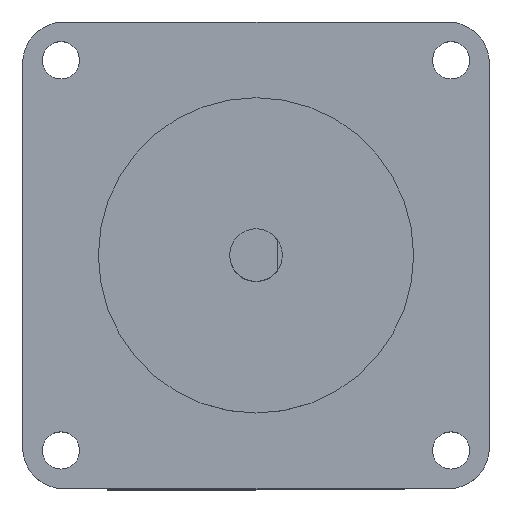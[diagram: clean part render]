
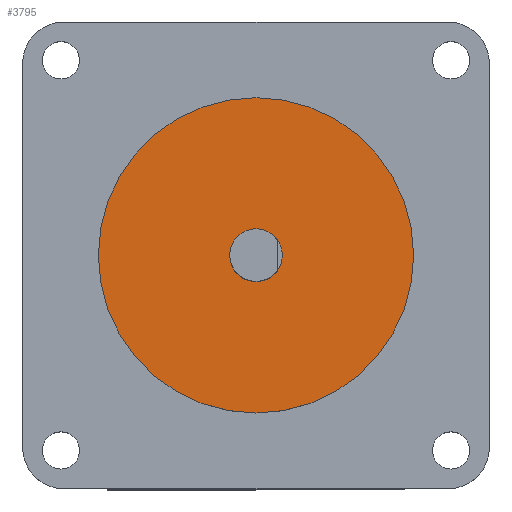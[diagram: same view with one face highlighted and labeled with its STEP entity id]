
A CAD part, top view. The second image highlights one B-rep face of the part: STEP entity #3795.
In plain terms, the highlighted planar face has unit normal (0, 0, 1).
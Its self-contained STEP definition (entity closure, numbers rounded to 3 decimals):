
#7 = FACE_OUTER_BOUND ( 'NONE', #1985, .T. ) ;
#123 = PLANE ( 'NONE',  #2548 ) ;
#233 = AXIS2_PLACEMENT_3D ( 'NONE', #1415, #3676, #1719 ) ;
#248 = CARTESIAN_POINT ( 'NONE',  ( 3.175, 0., 1.6 ) ) ;
#555 = CIRCLE ( 'NONE', #4089, 19.05 ) ;
#708 = DIRECTION ( 'NONE',  ( 0., 0., 1. ) ) ;
#730 = VERTEX_POINT ( 'NONE', #248 ) ;
#835 = ORIENTED_EDGE ( 'NONE', *, *, #2488, .T. ) ;
#852 = EDGE_LOOP ( 'NONE', ( #2181, #4210 ) ) ;
#912 = CARTESIAN_POINT ( 'NONE',  ( -19.05, 0., 1.6 ) ) ;
#995 = FACE_BOUND ( 'NONE', #852, .T. ) ;
#1003 = CIRCLE ( 'NONE', #3914, 19.05 ) ;
#1115 = CARTESIAN_POINT ( 'NONE',  ( 0., 0., 1.6 ) ) ;
#1182 = ORIENTED_EDGE ( 'NONE', *, *, #2391, .T. ) ;
#1361 = CARTESIAN_POINT ( 'NONE',  ( -3.175, 0., 1.6 ) ) ;
#1415 = CARTESIAN_POINT ( 'NONE',  ( 0., 0., 1.6 ) ) ;
#1460 = EDGE_CURVE ( 'NONE', #730, #2361, #1599, .T. ) ;
#1461 = DIRECTION ( 'NONE',  ( 1., 0., 0. ) ) ;
#1599 = CIRCLE ( 'NONE', #233, 3.175 ) ;
#1719 = DIRECTION ( 'NONE',  ( 1., 0., 0. ) ) ;
#1826 = DIRECTION ( 'NONE',  ( 0., 0., -1. ) ) ;
#1985 = EDGE_LOOP ( 'NONE', ( #1182, #835 ) ) ;
#2034 = VERTEX_POINT ( 'NONE', #912 ) ;
#2124 = DIRECTION ( 'NONE',  ( 1., 0., 0. ) ) ;
#2181 = ORIENTED_EDGE ( 'NONE', *, *, #3879, .T. ) ;
#2361 = VERTEX_POINT ( 'NONE', #1361 ) ;
#2391 = EDGE_CURVE ( 'NONE', #2034, #4208, #1003, .T. ) ;
#2404 = CARTESIAN_POINT ( 'NONE',  ( 19.05, 0., 1.6 ) ) ;
#2488 = EDGE_CURVE ( 'NONE', #4208, #2034, #555, .T. ) ;
#2548 = AXIS2_PLACEMENT_3D ( 'NONE', #3095, #4079, #2124 ) ;
#2644 = CARTESIAN_POINT ( 'NONE',  ( 0., 0., 1.6 ) ) ;
#2767 = AXIS2_PLACEMENT_3D ( 'NONE', #3789, #1826, #4124 ) ;
#2992 = DIRECTION ( 'NONE',  ( 1., 0., 0. ) ) ;
#3095 = CARTESIAN_POINT ( 'NONE',  ( 0., 0., 1.6 ) ) ;
#3395 = DIRECTION ( 'NONE',  ( 0., 0., 1. ) ) ;
#3676 = DIRECTION ( 'NONE',  ( 0., 0., -1. ) ) ;
#3789 = CARTESIAN_POINT ( 'NONE',  ( 0., 0., 1.6 ) ) ;
#3795 = ADVANCED_FACE ( 'NONE', ( #7, #995 ), #123, .T. ) ;
#3879 = EDGE_CURVE ( 'NONE', #2361, #730, #3960, .T. ) ;
#3914 = AXIS2_PLACEMENT_3D ( 'NONE', #2644, #708, #2992 ) ;
#3960 = CIRCLE ( 'NONE', #2767, 3.175 ) ;
#4079 = DIRECTION ( 'NONE',  ( 0., 0., 1. ) ) ;
#4089 = AXIS2_PLACEMENT_3D ( 'NONE', #1115, #3395, #1461 ) ;
#4124 = DIRECTION ( 'NONE',  ( 1., 0., 0. ) ) ;
#4208 = VERTEX_POINT ( 'NONE', #2404 ) ;
#4210 = ORIENTED_EDGE ( 'NONE', *, *, #1460, .T. ) ;
